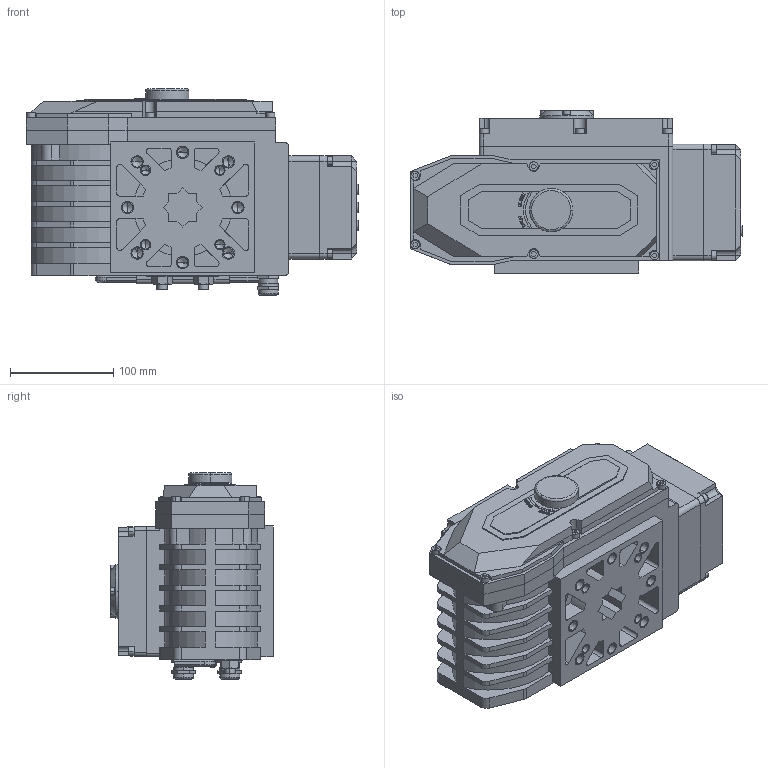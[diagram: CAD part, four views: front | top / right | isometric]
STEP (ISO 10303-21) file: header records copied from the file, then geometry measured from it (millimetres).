
FILE_DESCRIPTION((''),'2;1');
FILE_NAME('ELECTROPRIVOD_WITH_DISPLAY_ASM','2024-09-01T',('AMD'),(''),'PRO/ENGINEER BY PARAMETRIC TECHNOLOGY CORPORATION, 2008020','PRO/ENGINEER BY PARAMETRIC TECHNOLOGY CORPORATION, 2008020','');
FILE_SCHEMA(('CONFIG_CONTROL_DESIGN'));
Length unit declared in the file: millimetre
Products named in the file (13): DET_1; V-11738-M5; V-11738-M4; DET_2; KREPLENIE; KLUCH; DET_3; G-5915-M10; ELECTROPRIVOD_ASM; DET_4; DET_5; DISPLAY_ASM; ELECTROPRIVOD_WITH_DISPLAY_ASM
Assembly tree (31 placements, depth 3):
  ELECTROPRIVOD_WITH_DISPLAY_ASM
    ELECTROPRIVOD_ASM
      DET_1
      V-11738-M5  x12
      V-11738-M4  x4
      DET_2
      KREPLENIE
      KLUCH
      DET_3
      G-5915-M10  x2
    DISPLAY_ASM
      DET_4
      DET_5
      V-11738-M5  x4
Bounding box: 322 x 157.5 x 200 mm (x, y, z)
Volume: 5596764.8 mm3; surface area: 450785 mm2
Topology: 29 solids, 63 shells, 2249 faces, 6004 edges, 3980 vertices
Faces by surface type: plane 1564, cylinder 329, extrusion 300, cone 50, torus 6
Entity records: 61757 total; most frequent: CARTESIAN_POINT 13250, ORIENTED_EDGE 10440, DIRECTION 8833, EDGE_CURVE 5252, VECTOR 4407, LINE 4107, VERTEX_POINT 3484, AXIS2_PLACEMENT_3D 2213
